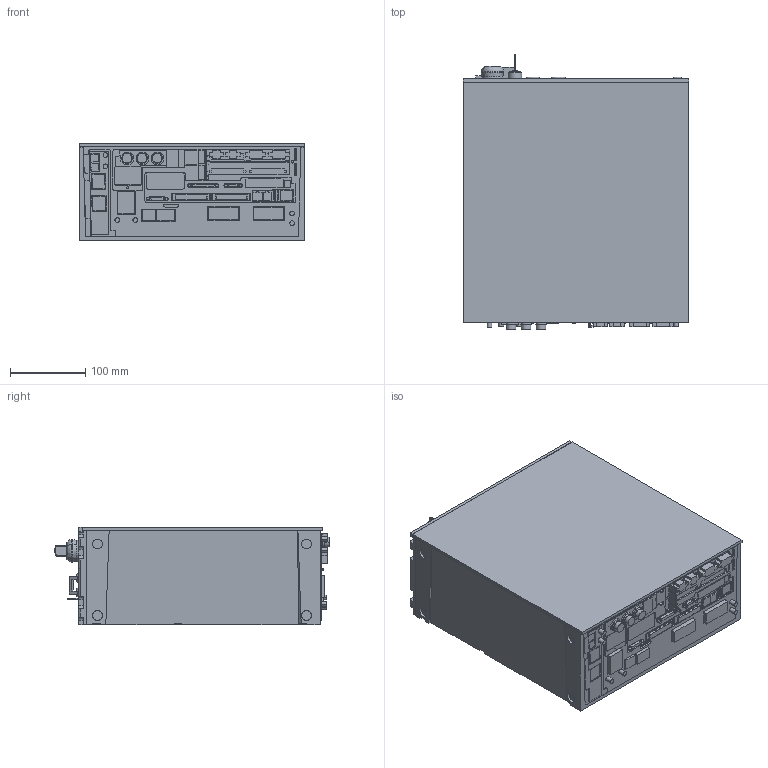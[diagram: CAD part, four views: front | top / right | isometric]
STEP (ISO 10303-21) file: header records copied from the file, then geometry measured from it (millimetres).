
FILE_DESCRIPTION(('CATIA V5 STEP Exchange'),'2;1');
FILE_NAME('C:\Users\RBUSERS\Desktop\F60 CONTROLLER161220\軽量化\Part\F60 CONTROLLER_R1.stp','2017-01-11T08:27:13+00:00',('none'),('none'),'CATIA Version 5-6 Release 2013 SP5 HF60','CATIA V5 STEP AP203','none');
FILE_SCHEMA(('CONFIG_CONTROL_DESIGN'));
Products named in the file (1): F60 CONTROLLER_R1
Bounding box: 300 x 364.75 x 130 mm (x, y, z)
Volume: 12315810 mm3; surface area: 752707.7 mm2
Topology: 6 solids, 17 shells, 2409 faces, 7594 edges, 5155 vertices
Faces by surface type: plane 1847, bspline 264, cylinder 254, extrusion 16, cone 12, torus 10, revolution 6
Entity records: 88182 total; most frequent: CARTESIAN_POINT 25078, ORIENTED_EDGE 15184, DIRECTION 9961, EDGE_CURVE 7592, VECTOR 5765, LINE 5749, VERTEX_POINT 5155, EDGE_LOOP 2657
